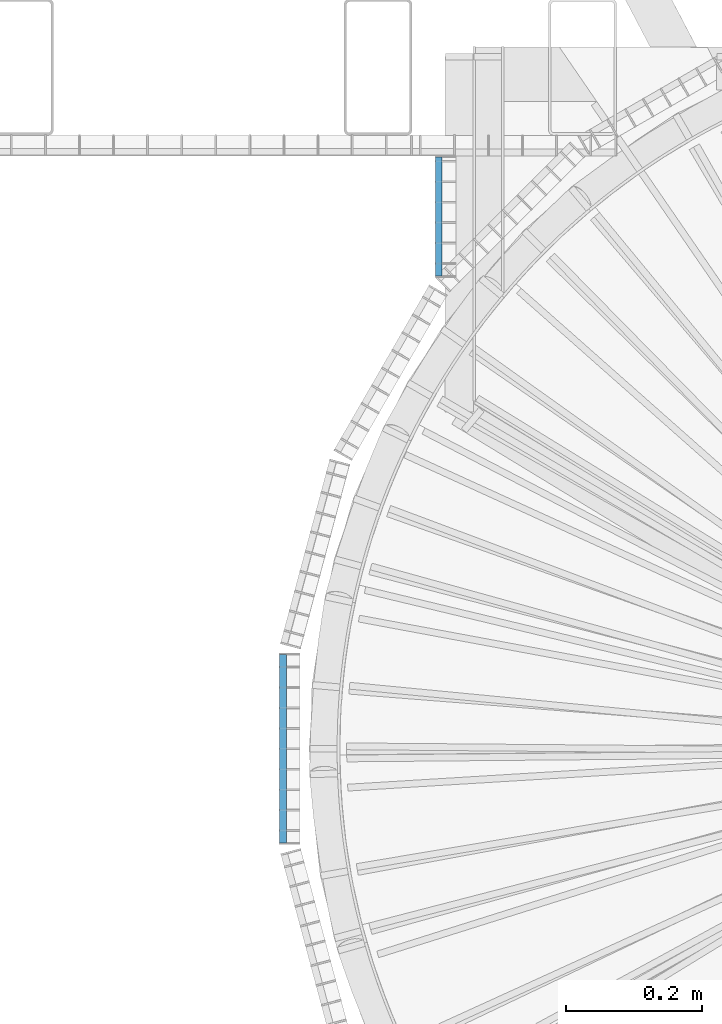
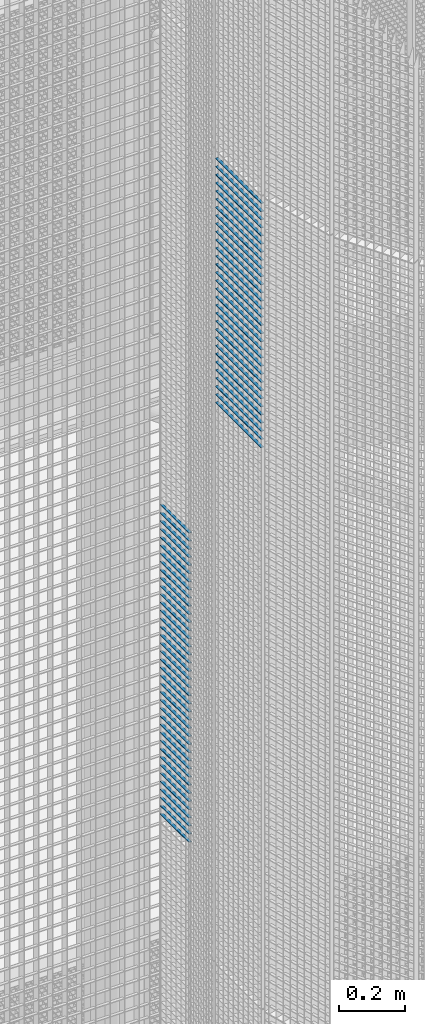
# One storey, part 188 of 1148: 70 beams, 2 elements without a shape of their own.
"""IFC2X3 building model written with IfcOpenShell, lengths in millimetres."""

from ifc_helpers import new_model, si_unit, frame, origin_with_axes, origin_2d_with_axis, place, context, subcontext, project, spatial, rectangle, extrude, material, type_object, element, aggregate, save


model = new_model("IFC2X3")

# Units and contexts
model_context = context("Model", 3, precision=1e-05, world=origin_with_axes())
body_context = subcontext(model_context, "Body", "Model", "MODEL_VIEW")
ifc_project = project(units=[si_unit("LENGTHUNIT", "METRE", prefix="MILLI"), si_unit("AREAUNIT", "SQUARE_METRE"), si_unit("VOLUMEUNIT", "CUBIC_METRE"), si_unit("MASSUNIT", "GRAM", prefix="KILO"), si_unit("TIMEUNIT", "SECOND"), si_unit("PLANEANGLEUNIT", "RADIAN"), si_unit("SOLIDANGLEUNIT", "STERADIAN"), si_unit("THERMODYNAMICTEMPERATUREUNIT", "DEGREE_CELSIUS"), si_unit("LUMINOUSINTENSITYUNIT", "LUMEN")], contexts=[model_context])

# Site, building, storey
site_placement = place(None, origin_with_axes())
site = spatial("IfcSite", under=ifc_project, at=site_placement, Name="Undefined", CompositionType="ELEMENT")
building_placement = place(site_placement, origin_with_axes())
building = spatial("IfcBuilding", under=site, at=building_placement, Name="Undefined", CompositionType="ELEMENT")
storey_placement = place(building_placement, origin_with_axes())
storey = spatial("IfcBuildingStorey", under=building, at=storey_placement, Name="Undefined", CompositionType="ELEMENT", Elevation=0.0)

# Assembly, beams
assembly_1_placement = place(storey_placement, origin_with_axes())
assembly_1 = element("IfcElementAssembly", 1, at=assembly_1_placement, inside=storey, Name="BORDURE", AssemblyPlace="NOTDEFINED", PredefinedType="NOTDEFINED")
ifc_material = material(Name="STEEL/S235JR")
beam_type = type_object("IfcBeamType", Name="PL2*10", PredefinedType="NOTDEFINED")
beam_1_placement = place(assembly_1_placement, frame((-884.882567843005, 867.99701719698, 13170.0), z_axis=(-1.0, 0.0, 0.0), x_axis=(0.0, -1.0, 0.0)))
beam_1 = element("IfcBeam", 2, at=beam_1_placement, type_object=beam_type, material=ifc_material, Name="ENTRETOISE", context=body_context, shape_type="SweptSolid", body=[
    extrude(rectangle(XDim=2.0, YDim=10.0, at=origin_2d_with_axis()), frame((174.109999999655, 0.0, 0.0), z_axis=(-1.0, 0.0, 0.0), x_axis=(0.0, -1.0, 0.0)), (0.0, 0.0, 1.0), 174.11),
])
beam_2_placement = place(assembly_1_placement, frame((-884.882567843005, 867.99701719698, 13140.0), z_axis=(-1.0, 0.0, 0.0), x_axis=(0.0, -1.0, 0.0)))
beam_2 = element("IfcBeam", 3, at=beam_2_placement, type_object=beam_type, material=ifc_material, Name="ENTRETOISE", context=body_context, shape_type="SweptSolid", body=[
    extrude(rectangle(XDim=2.0, YDim=10.0, at=origin_2d_with_axis()), frame((174.109999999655, 0.0, 0.0), z_axis=(-1.0, 0.0, 0.0), x_axis=(0.0, -1.0, 0.0)), (0.0, 0.0, 1.0), 174.11),
])
beam_3_placement = place(assembly_1_placement, frame((-884.882567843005, 867.997017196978, 12720.0), z_axis=(-1.0, 0.0, 0.0), x_axis=(0.0, -1.0, 0.0)))
beam_3 = element("IfcBeam", 4, at=beam_3_placement, type_object=beam_type, material=ifc_material, Name="ENTRETOISE", context=body_context, shape_type="SweptSolid", body=[
    extrude(rectangle(XDim=2.0, YDim=10.0, at=origin_2d_with_axis()), frame((174.109999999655, 0.0, 0.0), z_axis=(-1.0, 0.0, 0.0), x_axis=(0.0, -1.0, 0.0)), (0.0, 0.0, 1.0), 174.11),
])
beam_4_placement = place(assembly_1_placement, frame((-884.882567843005, 867.997017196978, 12690.0), z_axis=(-1.0, 0.0, 0.0), x_axis=(0.0, -1.0, 0.0)))
beam_4 = element("IfcBeam", 5, at=beam_4_placement, type_object=beam_type, material=ifc_material, Name="ENTRETOISE", context=body_context, shape_type="SweptSolid", body=[
    extrude(rectangle(XDim=2.0, YDim=10.0, at=origin_2d_with_axis()), frame((174.109999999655, 0.0, 0.0), z_axis=(-1.0, 0.0, 0.0), x_axis=(0.0, -1.0, 0.0)), (0.0, 0.0, 1.0), 174.11),
])
beam_5_placement = place(assembly_1_placement, frame((-884.882567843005, 867.997017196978, 12750.0), z_axis=(-1.0, 0.0, 0.0), x_axis=(0.0, -1.0, 0.0)))
beam_5 = element("IfcBeam", 6, at=beam_5_placement, type_object=beam_type, material=ifc_material, Name="ENTRETOISE", context=body_context, shape_type="SweptSolid", body=[
    extrude(rectangle(XDim=2.0, YDim=10.0, at=origin_2d_with_axis()), frame((174.109999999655, 0.0, 0.0), z_axis=(-1.0, 0.0, 0.0), x_axis=(0.0, -1.0, 0.0)), (0.0, 0.0, 1.0), 174.11),
])
beam_6_placement = place(assembly_1_placement, frame((-884.882567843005, 867.997017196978, 12660.0), z_axis=(-1.0, 0.0, 0.0), x_axis=(0.0, -1.0, 0.0)))
beam_6 = element("IfcBeam", 7, at=beam_6_placement, type_object=beam_type, material=ifc_material, Name="ENTRETOISE", context=body_context, shape_type="SweptSolid", body=[
    extrude(rectangle(XDim=2.0, YDim=10.0, at=origin_2d_with_axis()), frame((174.109999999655, 0.0, 0.0), z_axis=(-1.0, 0.0, 0.0), x_axis=(0.0, -1.0, 0.0)), (0.0, 0.0, 1.0), 174.11),
])
beam_7_placement = place(assembly_1_placement, frame((-884.882567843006, 867.997017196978, 12630.0), z_axis=(-1.0, 0.0, 0.0), x_axis=(0.0, -1.0, 0.0)))
beam_7 = element("IfcBeam", 8, at=beam_7_placement, type_object=beam_type, material=ifc_material, Name="ENTRETOISE", context=body_context, shape_type="SweptSolid", body=[
    extrude(rectangle(XDim=2.0, YDim=10.0, at=origin_2d_with_axis()), frame((174.109999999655, 0.0, 0.0), z_axis=(-1.0, 0.0, 0.0), x_axis=(0.0, -1.0, 0.0)), (0.0, 0.0, 1.0), 174.11),
])
beam_8_placement = place(assembly_1_placement, frame((-884.882567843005, 867.997017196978, 12780.0), z_axis=(-1.0, 0.0, 0.0), x_axis=(0.0, -1.0, 0.0)))
beam_8 = element("IfcBeam", 9, at=beam_8_placement, type_object=beam_type, material=ifc_material, Name="ENTRETOISE", context=body_context, shape_type="SweptSolid", body=[
    extrude(rectangle(XDim=2.0, YDim=10.0, at=origin_2d_with_axis()), frame((174.109999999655, 0.0, 0.0), z_axis=(-1.0, 0.0, 0.0), x_axis=(0.0, -1.0, 0.0)), (0.0, 0.0, 1.0), 174.11),
])
beam_9_placement = place(assembly_1_placement, frame((-884.882567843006, 867.997017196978, 12600.0), z_axis=(-1.0, 0.0, 0.0), x_axis=(0.0, -1.0, 0.0)))
beam_9 = element("IfcBeam", 10, at=beam_9_placement, type_object=beam_type, material=ifc_material, Name="ENTRETOISE", context=body_context, shape_type="SweptSolid", body=[
    extrude(rectangle(XDim=2.0, YDim=10.0, at=origin_2d_with_axis()), frame((174.109999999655, 0.0, 0.0), z_axis=(-1.0, 0.0, 0.0), x_axis=(0.0, -1.0, 0.0)), (0.0, 0.0, 1.0), 174.11),
])
beam_10_placement = place(assembly_1_placement, frame((-884.882567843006, 867.997017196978, 12810.0), z_axis=(-1.0, 0.0, 0.0), x_axis=(0.0, -1.0, 0.0)))
beam_10 = element("IfcBeam", 11, at=beam_10_placement, type_object=beam_type, material=ifc_material, Name="ENTRETOISE", context=body_context, shape_type="SweptSolid", body=[
    extrude(rectangle(XDim=2.0, YDim=10.0, at=origin_2d_with_axis()), frame((174.109999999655, 0.0, 0.0), z_axis=(-1.0, 0.0, 0.0), x_axis=(0.0, -1.0, 0.0)), (0.0, 0.0, 1.0), 174.11),
])
beam_11_placement = place(assembly_1_placement, frame((-884.882567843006, 867.997017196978, 12570.0), z_axis=(-1.0, 0.0, 0.0), x_axis=(0.0, -1.0, 0.0)))
beam_11 = element("IfcBeam", 12, at=beam_11_placement, type_object=beam_type, material=ifc_material, Name="ENTRETOISE", context=body_context, shape_type="SweptSolid", body=[
    extrude(rectangle(XDim=2.0, YDim=10.0, at=origin_2d_with_axis()), frame((174.109999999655, 0.0, 0.0), z_axis=(-1.0, 0.0, 0.0), x_axis=(0.0, -1.0, 0.0)), (0.0, 0.0, 1.0), 174.11),
])
beam_12_placement = place(assembly_1_placement, frame((-884.882567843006, 867.997017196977, 12540.0), z_axis=(-1.0, 0.0, 0.0), x_axis=(0.0, -1.0, 0.0)))
beam_12 = element("IfcBeam", 13, at=beam_12_placement, type_object=beam_type, material=ifc_material, Name="ENTRETOISE", context=body_context, shape_type="SweptSolid", body=[
    extrude(rectangle(XDim=2.0, YDim=10.0, at=origin_2d_with_axis()), frame((174.109999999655, 0.0, 0.0), z_axis=(-1.0, 0.0, 0.0), x_axis=(0.0, -1.0, 0.0)), (0.0, 0.0, 1.0), 174.11),
])
beam_13_placement = place(assembly_1_placement, frame((-884.882567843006, 867.997017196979, 12840.0), z_axis=(-1.0, 0.0, 0.0), x_axis=(0.0, -1.0, 0.0)))
beam_13 = element("IfcBeam", 14, at=beam_13_placement, type_object=beam_type, material=ifc_material, Name="ENTRETOISE", context=body_context, shape_type="SweptSolid", body=[
    extrude(rectangle(XDim=2.0, YDim=10.0, at=origin_2d_with_axis()), frame((174.109999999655, 0.0, 0.0), z_axis=(-1.0, 0.0, 0.0), x_axis=(0.0, -1.0, 0.0)), (0.0, 0.0, 1.0), 174.11),
])
beam_14_placement = place(assembly_1_placement, frame((-884.882567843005, 867.997017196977, 12510.0), z_axis=(-1.0, 0.0, 0.0), x_axis=(0.0, -1.0, 0.0)))
beam_14 = element("IfcBeam", 15, at=beam_14_placement, type_object=beam_type, material=ifc_material, Name="ENTRETOISE", context=body_context, shape_type="SweptSolid", body=[
    extrude(rectangle(XDim=2.0, YDim=10.0, at=origin_2d_with_axis()), frame((174.109999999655, 0.0, 0.0), z_axis=(-1.0, 0.0, 0.0), x_axis=(0.0, -1.0, 0.0)), (0.0, 0.0, 1.0), 174.11),
])
beam_15_placement = place(assembly_1_placement, frame((-884.882567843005, 867.997017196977, 12480.0), z_axis=(-1.0, 0.0, 0.0), x_axis=(0.0, -1.0, 0.0)))
beam_15 = element("IfcBeam", 16, at=beam_15_placement, type_object=beam_type, material=ifc_material, Name="ENTRETOISE", context=body_context, shape_type="SweptSolid", body=[
    extrude(rectangle(XDim=2.0, YDim=10.0, at=origin_2d_with_axis()), frame((174.109999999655, 0.0, 0.0), z_axis=(-1.0, 0.0, 0.0), x_axis=(0.0, -1.0, 0.0)), (0.0, 0.0, 1.0), 174.11),
])
beam_16_placement = place(assembly_1_placement, frame((-884.882567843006, 867.997017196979, 12870.0), z_axis=(-1.0, 0.0, 0.0), x_axis=(0.0, -1.0, 0.0)))
beam_16 = element("IfcBeam", 17, at=beam_16_placement, type_object=beam_type, material=ifc_material, Name="ENTRETOISE", context=body_context, shape_type="SweptSolid", body=[
    extrude(rectangle(XDim=2.0, YDim=10.0, at=origin_2d_with_axis()), frame((174.109999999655, 0.0, 0.0), z_axis=(-1.0, 0.0, 0.0), x_axis=(0.0, -1.0, 0.0)), (0.0, 0.0, 1.0), 174.11),
])
beam_17_placement = place(assembly_1_placement, frame((-884.882567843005, 867.997017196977, 12450.0), z_axis=(-1.0, 0.0, 0.0), x_axis=(0.0, -1.0, 0.0)))
beam_17 = element("IfcBeam", 18, at=beam_17_placement, type_object=beam_type, material=ifc_material, Name="ENTRETOISE", context=body_context, shape_type="SweptSolid", body=[
    extrude(rectangle(XDim=2.0, YDim=10.0, at=origin_2d_with_axis()), frame((174.109999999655, 0.0, 0.0), z_axis=(-1.0, 0.0, 0.0), x_axis=(0.0, -1.0, 0.0)), (0.0, 0.0, 1.0), 174.11),
])
beam_18_placement = place(assembly_1_placement, frame((-884.882567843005, 867.997017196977, 12420.0), z_axis=(-1.0, 0.0, 0.0), x_axis=(0.0, -1.0, 0.0)))
beam_18 = element("IfcBeam", 19, at=beam_18_placement, type_object=beam_type, material=ifc_material, Name="ENTRETOISE", context=body_context, shape_type="SweptSolid", body=[
    extrude(rectangle(XDim=2.0, YDim=10.0, at=origin_2d_with_axis()), frame((174.109999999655, 0.0, 0.0), z_axis=(-1.0, 0.0, 0.0), x_axis=(0.0, -1.0, 0.0)), (0.0, 0.0, 1.0), 174.11),
])
beam_19_placement = place(assembly_1_placement, frame((-884.882567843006, 867.997017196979, 12900.0), z_axis=(-1.0, 0.0, 0.0), x_axis=(0.0, -1.0, 0.0)))
beam_19 = element("IfcBeam", 20, at=beam_19_placement, type_object=beam_type, material=ifc_material, Name="ENTRETOISE", context=body_context, shape_type="SweptSolid", body=[
    extrude(rectangle(XDim=2.0, YDim=10.0, at=origin_2d_with_axis()), frame((174.109999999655, 0.0, 0.0), z_axis=(-1.0, 0.0, 0.0), x_axis=(0.0, -1.0, 0.0)), (0.0, 0.0, 1.0), 174.11),
])
beam_20_placement = place(assembly_1_placement, frame((-884.882567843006, 867.997017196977, 12390.0), z_axis=(-1.0, 0.0, 0.0), x_axis=(0.0, -1.0, 0.0)))
beam_20 = element("IfcBeam", 21, at=beam_20_placement, type_object=beam_type, material=ifc_material, Name="ENTRETOISE", context=body_context, shape_type="SweptSolid", body=[
    extrude(rectangle(XDim=2.0, YDim=10.0, at=origin_2d_with_axis()), frame((174.109999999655, 0.0, 0.0), z_axis=(-1.0, 0.0, 0.0), x_axis=(0.0, -1.0, 0.0)), (0.0, 0.0, 1.0), 174.11),
])
beam_21_placement = place(assembly_1_placement, frame((-884.882567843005, 867.997017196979, 12930.0), z_axis=(-1.0, 0.0, 0.0), x_axis=(0.0, -1.0, 0.0)))
beam_21 = element("IfcBeam", 22, at=beam_21_placement, type_object=beam_type, material=ifc_material, Name="ENTRETOISE", context=body_context, shape_type="SweptSolid", body=[
    extrude(rectangle(XDim=2.0, YDim=10.0, at=origin_2d_with_axis()), frame((174.109999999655, 0.0, 0.0), z_axis=(-1.0, 0.0, 0.0), x_axis=(0.0, -1.0, 0.0)), (0.0, 0.0, 1.0), 174.11),
])
beam_22_placement = place(assembly_1_placement, frame((-884.882567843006, 867.997017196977, 12360.0), z_axis=(-1.0, 0.0, 0.0), x_axis=(0.0, -1.0, 0.0)))
beam_22 = element("IfcBeam", 23, at=beam_22_placement, type_object=beam_type, material=ifc_material, Name="ENTRETOISE", context=body_context, shape_type="SweptSolid", body=[
    extrude(rectangle(XDim=2.0, YDim=10.0, at=origin_2d_with_axis()), frame((174.109999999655, 0.0, 0.0), z_axis=(-1.0, 0.0, 0.0), x_axis=(0.0, -1.0, 0.0)), (0.0, 0.0, 1.0), 174.11),
])
beam_23_placement = place(assembly_1_placement, frame((-884.882567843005, 867.997017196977, 12330.0), z_axis=(-1.0, 0.0, 0.0), x_axis=(0.0, -1.0, 0.0)))
beam_23 = element("IfcBeam", 24, at=beam_23_placement, type_object=beam_type, material=ifc_material, Name="ENTRETOISE", context=body_context, shape_type="SweptSolid", body=[
    extrude(rectangle(XDim=2.0, YDim=10.0, at=origin_2d_with_axis()), frame((174.109999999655, 0.0, 0.0), z_axis=(-1.0, 0.0, 0.0), x_axis=(0.0, -1.0, 0.0)), (0.0, 0.0, 1.0), 174.11),
])
beam_24_placement = place(assembly_1_placement, frame((-884.882567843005, 867.997017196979, 12960.0), z_axis=(-1.0, 0.0, 0.0), x_axis=(0.0, -1.0, 0.0)))
beam_24 = element("IfcBeam", 25, at=beam_24_placement, type_object=beam_type, material=ifc_material, Name="ENTRETOISE", context=body_context, shape_type="SweptSolid", body=[
    extrude(rectangle(XDim=2.0, YDim=10.0, at=origin_2d_with_axis()), frame((174.109999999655, 0.0, 0.0), z_axis=(-1.0, 0.0, 0.0), x_axis=(0.0, -1.0, 0.0)), (0.0, 0.0, 1.0), 174.11),
])
beam_25_placement = place(assembly_1_placement, frame((-884.882567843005, 867.997017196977, 12300.0), z_axis=(-1.0, 0.0, 0.0), x_axis=(0.0, -1.0, 0.0)))
beam_25 = element("IfcBeam", 26, at=beam_25_placement, type_object=beam_type, material=ifc_material, Name="ENTRETOISE", context=body_context, shape_type="SweptSolid", body=[
    extrude(rectangle(XDim=2.0, YDim=10.0, at=origin_2d_with_axis()), frame((174.109999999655, 0.0, 0.0), z_axis=(-1.0, 0.0, 0.0), x_axis=(0.0, -1.0, 0.0)), (0.0, 0.0, 1.0), 174.11),
])
beam_26_placement = place(assembly_1_placement, frame((-884.882567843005, 867.997017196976, 12270.0), z_axis=(-1.0, 0.0, 0.0), x_axis=(0.0, -1.0, 0.0)))
beam_26 = element("IfcBeam", 27, at=beam_26_placement, type_object=beam_type, material=ifc_material, Name="ENTRETOISE", context=body_context, shape_type="SweptSolid", body=[
    extrude(rectangle(XDim=2.0, YDim=10.0, at=origin_2d_with_axis()), frame((174.109999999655, 0.0, 0.0), z_axis=(-1.0, 0.0, 0.0), x_axis=(0.0, -1.0, 0.0)), (0.0, 0.0, 1.0), 174.11),
])
beam_27_placement = place(assembly_1_placement, frame((-884.882567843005, 867.997017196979, 12990.0), z_axis=(-1.0, 0.0, 0.0), x_axis=(0.0, -1.0, 0.0)))
beam_27 = element("IfcBeam", 28, at=beam_27_placement, type_object=beam_type, material=ifc_material, Name="ENTRETOISE", context=body_context, shape_type="SweptSolid", body=[
    extrude(rectangle(XDim=2.0, YDim=10.0, at=origin_2d_with_axis()), frame((174.109999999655, 0.0, 0.0), z_axis=(-1.0, 0.0, 0.0), x_axis=(0.0, -1.0, 0.0)), (0.0, 0.0, 1.0), 174.11),
])
beam_28_placement = place(assembly_1_placement, frame((-884.882567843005, 867.997017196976, 12240.0), z_axis=(-1.0, 0.0, 0.0), x_axis=(0.0, -1.0, 0.0)))
beam_28 = element("IfcBeam", 29, at=beam_28_placement, type_object=beam_type, material=ifc_material, Name="ENTRETOISE", context=body_context, shape_type="SweptSolid", body=[
    extrude(rectangle(XDim=2.0, YDim=10.0, at=origin_2d_with_axis()), frame((174.109999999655, 0.0, 0.0), z_axis=(-1.0, 0.0, 0.0), x_axis=(0.0, -1.0, 0.0)), (0.0, 0.0, 1.0), 174.11),
])
beam_29_placement = place(assembly_1_placement, frame((-884.882567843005, 867.997017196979, 13020.0), z_axis=(-1.0, 0.0, 0.0), x_axis=(0.0, -1.0, 0.0)))
beam_29 = element("IfcBeam", 30, at=beam_29_placement, type_object=beam_type, material=ifc_material, Name="ENTRETOISE", context=body_context, shape_type="SweptSolid", body=[
    extrude(rectangle(XDim=2.0, YDim=10.0, at=origin_2d_with_axis()), frame((174.109999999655, 0.0, 0.0), z_axis=(-1.0, 0.0, 0.0), x_axis=(0.0, -1.0, 0.0)), (0.0, 0.0, 1.0), 174.11),
])
beam_30_placement = place(assembly_1_placement, frame((-884.882567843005, 867.997017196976, 12210.0), z_axis=(-1.0, 0.0, 0.0), x_axis=(0.0, -1.0, 0.0)))
beam_30 = element("IfcBeam", 31, at=beam_30_placement, type_object=beam_type, material=ifc_material, Name="ENTRETOISE", context=body_context, shape_type="SweptSolid", body=[
    extrude(rectangle(XDim=2.0, YDim=10.0, at=origin_2d_with_axis()), frame((174.109999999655, 0.0, 0.0), z_axis=(-1.0, 0.0, 0.0), x_axis=(0.0, -1.0, 0.0)), (0.0, 0.0, 1.0), 174.11),
])
beam_31_placement = place(assembly_1_placement, frame((-884.882567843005, 867.997017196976, 12180.0), z_axis=(-1.0, 0.0, 0.0), x_axis=(0.0, -1.0, 0.0)))
beam_31 = element("IfcBeam", 32, at=beam_31_placement, type_object=beam_type, material=ifc_material, Name="ENTRETOISE", context=body_context, shape_type="SweptSolid", body=[
    extrude(rectangle(XDim=2.0, YDim=10.0, at=origin_2d_with_axis()), frame((174.109999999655, 0.0, 0.0), z_axis=(-1.0, 0.0, 0.0), x_axis=(0.0, -1.0, 0.0)), (0.0, 0.0, 1.0), 174.11),
])
beam_32_placement = place(assembly_1_placement, frame((-884.882567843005, 867.997017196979, 13050.0), z_axis=(-1.0, 0.0, 0.0), x_axis=(0.0, -1.0, 0.0)))
beam_32 = element("IfcBeam", 33, at=beam_32_placement, type_object=beam_type, material=ifc_material, Name="ENTRETOISE", context=body_context, shape_type="SweptSolid", body=[
    extrude(rectangle(XDim=2.0, YDim=10.0, at=origin_2d_with_axis()), frame((174.109999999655, 0.0, 0.0), z_axis=(-1.0, 0.0, 0.0), x_axis=(0.0, -1.0, 0.0)), (0.0, 0.0, 1.0), 174.11),
])
beam_33_placement = place(assembly_1_placement, frame((-884.882567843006, 867.997017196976, 12150.0), z_axis=(-1.0, 0.0, 0.0), x_axis=(0.0, -1.0, 0.0)))
beam_33 = element("IfcBeam", 34, at=beam_33_placement, type_object=beam_type, material=ifc_material, Name="ENTRETOISE", context=body_context, shape_type="SweptSolid", body=[
    extrude(rectangle(XDim=2.0, YDim=10.0, at=origin_2d_with_axis()), frame((174.109999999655, 0.0, 0.0), z_axis=(-1.0, 0.0, 0.0), x_axis=(0.0, -1.0, 0.0)), (0.0, 0.0, 1.0), 174.11),
])
beam_34_placement = place(assembly_1_placement, frame((-884.882567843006, 867.997017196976, 12120.0), z_axis=(-1.0, 0.0, 0.0), x_axis=(0.0, -1.0, 0.0)))
beam_34 = element("IfcBeam", 35, at=beam_34_placement, type_object=beam_type, material=ifc_material, Name="ENTRETOISE", context=body_context, shape_type="SweptSolid", body=[
    extrude(rectangle(XDim=2.0, YDim=10.0, at=origin_2d_with_axis()), frame((174.109999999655, 0.0, 0.0), z_axis=(-1.0, 0.0, 0.0), x_axis=(0.0, -1.0, 0.0)), (0.0, 0.0, 1.0), 174.11),
])
beam_35_placement = place(assembly_1_placement, frame((-884.882567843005, 867.997017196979, 13080.0), z_axis=(-1.0, 0.0, 0.0), x_axis=(0.0, -1.0, 0.0)))
beam_35 = element("IfcBeam", 36, at=beam_35_placement, type_object=beam_type, material=ifc_material, Name="ENTRETOISE", context=body_context, shape_type="SweptSolid", body=[
    extrude(rectangle(XDim=2.0, YDim=10.0, at=origin_2d_with_axis()), frame((174.109999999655, 0.0, 0.0), z_axis=(-1.0, 0.0, 0.0), x_axis=(0.0, -1.0, 0.0)), (0.0, 0.0, 1.0), 174.11),
])
beam_36_placement = place(assembly_1_placement, frame((-884.882567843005, 867.997017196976, 12090.0), z_axis=(-1.0, 0.0, 0.0), x_axis=(0.0, -1.0, 0.0)))
beam_36 = element("IfcBeam", 37, at=beam_36_placement, type_object=beam_type, material=ifc_material, Name="ENTRETOISE", context=body_context, shape_type="SweptSolid", body=[
    extrude(rectangle(XDim=2.0, YDim=10.0, at=origin_2d_with_axis()), frame((174.109999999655, 0.0, 0.0), z_axis=(-1.0, 0.0, 0.0), x_axis=(0.0, -1.0, 0.0)), (0.0, 0.0, 1.0), 174.11),
])
beam_37_placement = place(assembly_1_placement, frame((-884.882567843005, 867.997017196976, 12060.0), z_axis=(-1.0, 0.0, 0.0), x_axis=(0.0, -1.0, 0.0)))
beam_37 = element("IfcBeam", 38, at=beam_37_placement, type_object=beam_type, material=ifc_material, Name="ENTRETOISE", context=body_context, shape_type="SweptSolid", body=[
    extrude(rectangle(XDim=2.0, YDim=10.0, at=origin_2d_with_axis()), frame((174.109999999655, 0.0, 0.0), z_axis=(-1.0, 0.0, 0.0), x_axis=(0.0, -1.0, 0.0)), (0.0, 0.0, 1.0), 174.11),
])
beam_38_placement = place(assembly_1_placement, frame((-884.882567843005, 867.99701719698, 13110.0), z_axis=(-1.0, 0.0, 0.0), x_axis=(0.0, -1.0, 0.0)))
beam_38 = element("IfcBeam", 39, at=beam_38_placement, type_object=beam_type, material=ifc_material, Name="ENTRETOISE", context=body_context, shape_type="SweptSolid", body=[
    extrude(rectangle(XDim=2.0, YDim=10.0, at=origin_2d_with_axis()), frame((174.109999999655, 0.0, 0.0), z_axis=(-1.0, 0.0, 0.0), x_axis=(0.0, -1.0, 0.0)), (0.0, 0.0, 1.0), 174.11),
])
beam_39_placement = place(assembly_1_placement, frame((-884.882567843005, 867.997017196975, 12030.0), z_axis=(-1.0, 0.0, 0.0), x_axis=(0.0, -1.0, 0.0)))
beam_39 = element("IfcBeam", 40, at=beam_39_placement, type_object=beam_type, material=ifc_material, Name="ENTRETOISE", context=body_context, shape_type="SweptSolid", body=[
    extrude(rectangle(XDim=2.0, YDim=10.0, at=origin_2d_with_axis()), frame((174.109999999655, 0.0, 0.0), z_axis=(-1.0, 0.0, 0.0), x_axis=(0.0, -1.0, 0.0)), (0.0, 0.0, 1.0), 174.11),
])
aggregate(assembly_1, [beam_1, beam_2, beam_3, beam_4, beam_5, beam_6, beam_7, beam_8, beam_9, beam_10, beam_11, beam_12, beam_13, beam_14, beam_15, beam_16, beam_17, beam_18, beam_19, beam_20, beam_21, beam_22, beam_23, beam_24, beam_25, beam_26, beam_27, beam_28, beam_29, beam_30, beam_31, beam_32, beam_33, beam_34, beam_35, beam_36, beam_37, beam_38, beam_39])

assembly_2_placement = place(storey_placement, origin_with_axes())
assembly_2 = element("IfcElementAssembly", 41, at=assembly_2_placement, inside=storey, Name="BORDURE", AssemblyPlace="NOTDEFINED", PredefinedType="NOTDEFINED")
beam_40_placement = place(assembly_2_placement, frame((-1113.47999999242, 137.996003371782, 14970.0), z_axis=(-1.0, 0.0, 0.0), x_axis=(0.0, -1.0, 0.0)))
beam_40 = element("IfcBeam", 42, at=beam_40_placement, type_object=beam_type, material=ifc_material, Name="ENTRETOISE", context=body_context, shape_type="SweptSolid", body=[
    extrude(rectangle(XDim=2.0, YDim=10.0, at=origin_2d_with_axis()), frame((275.999999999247, 9.09494701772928e-13, 1.53210777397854e-14), z_axis=(-1.0, 0.0, 0.0), x_axis=(0.0, -1.0, 0.0)), (0.0, 0.0, 1.0), 276.0),
])
beam_41_placement = place(assembly_2_placement, frame((-1113.47999999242, 137.996003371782, 14940.0), z_axis=(-1.0, 0.0, 0.0), x_axis=(0.0, -1.0, 0.0)))
beam_41 = element("IfcBeam", 43, at=beam_41_placement, type_object=beam_type, material=ifc_material, Name="ENTRETOISE", context=body_context, shape_type="SweptSolid", body=[
    extrude(rectangle(XDim=2.0, YDim=10.0, at=origin_2d_with_axis()), frame((275.999999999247, 9.09494701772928e-13, 1.53210777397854e-14), z_axis=(-1.0, 0.0, 0.0), x_axis=(0.0, -1.0, 0.0)), (0.0, 0.0, 1.0), 276.0),
])
beam_42_placement = place(assembly_2_placement, frame((-1113.47999999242, 137.996003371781, 14910.0), z_axis=(-1.0, 0.0, 0.0), x_axis=(0.0, -1.0, 0.0)))
beam_42 = element("IfcBeam", 44, at=beam_42_placement, type_object=beam_type, material=ifc_material, Name="ENTRETOISE", context=body_context, shape_type="SweptSolid", body=[
    extrude(rectangle(XDim=2.0, YDim=10.0, at=origin_2d_with_axis()), frame((275.999999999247, 9.09494701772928e-13, 1.53210777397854e-14), z_axis=(-1.0, 0.0, 0.0), x_axis=(0.0, -1.0, 0.0)), (0.0, 0.0, 1.0), 276.0),
])
beam_43_placement = place(assembly_2_placement, frame((-1113.47999999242, 137.996003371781, 14880.0), z_axis=(-1.0, 0.0, 0.0), x_axis=(0.0, -1.0, 0.0)))
beam_43 = element("IfcBeam", 45, at=beam_43_placement, type_object=beam_type, material=ifc_material, Name="ENTRETOISE", context=body_context, shape_type="SweptSolid", body=[
    extrude(rectangle(XDim=2.0, YDim=10.0, at=origin_2d_with_axis()), frame((275.999999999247, 9.09494701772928e-13, 1.53210777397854e-14), z_axis=(-1.0, 0.0, 0.0), x_axis=(0.0, -1.0, 0.0)), (0.0, 0.0, 1.0), 276.0),
])
beam_44_placement = place(assembly_2_placement, frame((-1113.47999999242, 137.996003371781, 14850.0), z_axis=(-1.0, 0.0, 0.0), x_axis=(0.0, -1.0, 0.0)))
beam_44 = element("IfcBeam", 46, at=beam_44_placement, type_object=beam_type, material=ifc_material, Name="ENTRETOISE", context=body_context, shape_type="SweptSolid", body=[
    extrude(rectangle(XDim=2.0, YDim=10.0, at=origin_2d_with_axis()), frame((275.999999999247, 9.09494701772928e-13, 1.53210777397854e-14), z_axis=(-1.0, 0.0, 0.0), x_axis=(0.0, -1.0, 0.0)), (0.0, 0.0, 1.0), 276.0),
])
beam_45_placement = place(assembly_2_placement, frame((-1113.47999999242, 137.996003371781, 14820.0), z_axis=(-1.0, 0.0, 0.0), x_axis=(0.0, -1.0, 0.0)))
beam_45 = element("IfcBeam", 47, at=beam_45_placement, type_object=beam_type, material=ifc_material, Name="ENTRETOISE", context=body_context, shape_type="SweptSolid", body=[
    extrude(rectangle(XDim=2.0, YDim=10.0, at=origin_2d_with_axis()), frame((275.999999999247, 9.09494701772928e-13, 1.53210777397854e-14), z_axis=(-1.0, 0.0, 0.0), x_axis=(0.0, -1.0, 0.0)), (0.0, 0.0, 1.0), 276.0),
])
beam_46_placement = place(assembly_2_placement, frame((-1113.47999999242, 137.996003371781, 14790.0), z_axis=(-1.0, 0.0, 0.0), x_axis=(0.0, -1.0, 0.0)))
beam_46 = element("IfcBeam", 48, at=beam_46_placement, type_object=beam_type, material=ifc_material, Name="ENTRETOISE", context=body_context, shape_type="SweptSolid", body=[
    extrude(rectangle(XDim=2.0, YDim=10.0, at=origin_2d_with_axis()), frame((275.999999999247, 9.09494701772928e-13, 1.53210777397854e-14), z_axis=(-1.0, 0.0, 0.0), x_axis=(0.0, -1.0, 0.0)), (0.0, 0.0, 1.0), 276.0),
])
beam_47_placement = place(assembly_2_placement, frame((-1113.47999999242, 137.996003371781, 14760.0), z_axis=(-1.0, 0.0, 0.0), x_axis=(0.0, -1.0, 0.0)))
beam_47 = element("IfcBeam", 49, at=beam_47_placement, type_object=beam_type, material=ifc_material, Name="ENTRETOISE", context=body_context, shape_type="SweptSolid", body=[
    extrude(rectangle(XDim=2.0, YDim=10.0, at=origin_2d_with_axis()), frame((275.999999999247, 9.09494701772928e-13, 1.53210777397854e-14), z_axis=(-1.0, 0.0, 0.0), x_axis=(0.0, -1.0, 0.0)), (0.0, 0.0, 1.0), 276.0),
])
beam_48_placement = place(assembly_2_placement, frame((-1113.47999999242, 137.996003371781, 14730.0), z_axis=(-1.0, 0.0, 0.0), x_axis=(0.0, -1.0, 0.0)))
beam_48 = element("IfcBeam", 50, at=beam_48_placement, type_object=beam_type, material=ifc_material, Name="ENTRETOISE", context=body_context, shape_type="SweptSolid", body=[
    extrude(rectangle(XDim=2.0, YDim=10.0, at=origin_2d_with_axis()), frame((275.999999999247, 9.09494701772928e-13, 1.53210777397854e-14), z_axis=(-1.0, 0.0, 0.0), x_axis=(0.0, -1.0, 0.0)), (0.0, 0.0, 1.0), 276.0),
])
beam_49_placement = place(assembly_2_placement, frame((-1113.47999999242, 137.996003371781, 14700.0), z_axis=(-1.0, 0.0, 0.0), x_axis=(0.0, -1.0, 0.0)))
beam_49 = element("IfcBeam", 51, at=beam_49_placement, type_object=beam_type, material=ifc_material, Name="ENTRETOISE", context=body_context, shape_type="SweptSolid", body=[
    extrude(rectangle(XDim=2.0, YDim=10.0, at=origin_2d_with_axis()), frame((275.999999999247, 9.09494701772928e-13, 1.53210777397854e-14), z_axis=(-1.0, 0.0, 0.0), x_axis=(0.0, -1.0, 0.0)), (0.0, 0.0, 1.0), 276.0),
])
beam_50_placement = place(assembly_2_placement, frame((-1113.47999999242, 137.996003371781, 14670.0), z_axis=(-1.0, 0.0, 0.0), x_axis=(0.0, -1.0, 0.0)))
beam_50 = element("IfcBeam", 52, at=beam_50_placement, type_object=beam_type, material=ifc_material, Name="ENTRETOISE", context=body_context, shape_type="SweptSolid", body=[
    extrude(rectangle(XDim=2.0, YDim=10.0, at=origin_2d_with_axis()), frame((275.999999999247, 9.09494701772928e-13, 1.53210777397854e-14), z_axis=(-1.0, 0.0, 0.0), x_axis=(0.0, -1.0, 0.0)), (0.0, 0.0, 1.0), 276.0),
])
beam_51_placement = place(assembly_2_placement, frame((-1113.47999999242, 137.99600337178, 14640.0), z_axis=(-1.0, 0.0, 0.0), x_axis=(0.0, -1.0, 0.0)))
beam_51 = element("IfcBeam", 53, at=beam_51_placement, type_object=beam_type, material=ifc_material, Name="ENTRETOISE", context=body_context, shape_type="SweptSolid", body=[
    extrude(rectangle(XDim=2.0, YDim=10.0, at=origin_2d_with_axis()), frame((275.999999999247, 9.09494701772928e-13, 1.53210777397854e-14), z_axis=(-1.0, 0.0, 0.0), x_axis=(0.0, -1.0, 0.0)), (0.0, 0.0, 1.0), 276.0),
])
beam_52_placement = place(assembly_2_placement, frame((-1113.47999999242, 137.99600337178, 14610.0), z_axis=(-1.0, 0.0, 0.0), x_axis=(0.0, -1.0, 0.0)))
beam_52 = element("IfcBeam", 54, at=beam_52_placement, type_object=beam_type, material=ifc_material, Name="ENTRETOISE", context=body_context, shape_type="SweptSolid", body=[
    extrude(rectangle(XDim=2.0, YDim=10.0, at=origin_2d_with_axis()), frame((275.999999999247, 9.09494701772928e-13, 1.53210777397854e-14), z_axis=(-1.0, 0.0, 0.0), x_axis=(0.0, -1.0, 0.0)), (0.0, 0.0, 1.0), 276.0),
])
beam_53_placement = place(assembly_2_placement, frame((-1113.47999999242, 137.99600337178, 14580.0), z_axis=(-1.0, 0.0, 0.0), x_axis=(0.0, -1.0, 0.0)))
beam_53 = element("IfcBeam", 55, at=beam_53_placement, type_object=beam_type, material=ifc_material, Name="ENTRETOISE", context=body_context, shape_type="SweptSolid", body=[
    extrude(rectangle(XDim=2.0, YDim=10.0, at=origin_2d_with_axis()), frame((275.999999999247, 9.09494701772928e-13, 1.53210777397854e-14), z_axis=(-1.0, 0.0, 0.0), x_axis=(0.0, -1.0, 0.0)), (0.0, 0.0, 1.0), 276.0),
])
beam_54_placement = place(assembly_2_placement, frame((-1113.47999999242, 137.99600337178, 14550.0), z_axis=(-1.0, 0.0, 0.0), x_axis=(0.0, -1.0, 0.0)))
beam_54 = element("IfcBeam", 56, at=beam_54_placement, type_object=beam_type, material=ifc_material, Name="ENTRETOISE", context=body_context, shape_type="SweptSolid", body=[
    extrude(rectangle(XDim=2.0, YDim=10.0, at=origin_2d_with_axis()), frame((275.999999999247, 9.09494701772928e-13, 1.53210777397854e-14), z_axis=(-1.0, 0.0, 0.0), x_axis=(0.0, -1.0, 0.0)), (0.0, 0.0, 1.0), 276.0),
])
beam_55_placement = place(assembly_2_placement, frame((-1113.47999999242, 137.99600337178, 14520.0), z_axis=(-1.0, 0.0, 0.0), x_axis=(0.0, -1.0, 0.0)))
beam_55 = element("IfcBeam", 57, at=beam_55_placement, type_object=beam_type, material=ifc_material, Name="ENTRETOISE", context=body_context, shape_type="SweptSolid", body=[
    extrude(rectangle(XDim=2.0, YDim=10.0, at=origin_2d_with_axis()), frame((275.999999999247, 9.09494701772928e-13, 1.53210777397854e-14), z_axis=(-1.0, 0.0, 0.0), x_axis=(0.0, -1.0, 0.0)), (0.0, 0.0, 1.0), 276.0),
])
beam_56_placement = place(assembly_2_placement, frame((-1113.47999999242, 137.99600337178, 14490.0), z_axis=(-1.0, 0.0, 0.0), x_axis=(0.0, -1.0, 0.0)))
beam_56 = element("IfcBeam", 58, at=beam_56_placement, type_object=beam_type, material=ifc_material, Name="ENTRETOISE", context=body_context, shape_type="SweptSolid", body=[
    extrude(rectangle(XDim=2.0, YDim=10.0, at=origin_2d_with_axis()), frame((275.999999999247, 9.09494701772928e-13, 1.53210777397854e-14), z_axis=(-1.0, 0.0, 0.0), x_axis=(0.0, -1.0, 0.0)), (0.0, 0.0, 1.0), 276.0),
])
beam_57_placement = place(assembly_2_placement, frame((-1113.47999999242, 137.99600337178, 14460.0), z_axis=(-1.0, 0.0, 0.0), x_axis=(0.0, -1.0, 0.0)))
beam_57 = element("IfcBeam", 59, at=beam_57_placement, type_object=beam_type, material=ifc_material, Name="ENTRETOISE", context=body_context, shape_type="SweptSolid", body=[
    extrude(rectangle(XDim=2.0, YDim=10.0, at=origin_2d_with_axis()), frame((275.999999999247, 9.09494701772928e-13, 1.53210777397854e-14), z_axis=(-1.0, 0.0, 0.0), x_axis=(0.0, -1.0, 0.0)), (0.0, 0.0, 1.0), 276.0),
])
beam_58_placement = place(assembly_2_placement, frame((-1113.47999999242, 137.99600337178, 14430.0), z_axis=(-1.0, 0.0, 0.0), x_axis=(0.0, -1.0, 0.0)))
beam_58 = element("IfcBeam", 60, at=beam_58_placement, type_object=beam_type, material=ifc_material, Name="ENTRETOISE", context=body_context, shape_type="SweptSolid", body=[
    extrude(rectangle(XDim=2.0, YDim=10.0, at=origin_2d_with_axis()), frame((275.999999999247, 9.09494701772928e-13, 1.53210777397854e-14), z_axis=(-1.0, 0.0, 0.0), x_axis=(0.0, -1.0, 0.0)), (0.0, 0.0, 1.0), 276.0),
])
beam_59_placement = place(assembly_2_placement, frame((-1113.47999999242, 137.99600337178, 14400.0), z_axis=(-1.0, 0.0, 0.0), x_axis=(0.0, -1.0, 0.0)))
beam_59 = element("IfcBeam", 61, at=beam_59_placement, type_object=beam_type, material=ifc_material, Name="ENTRETOISE", context=body_context, shape_type="SweptSolid", body=[
    extrude(rectangle(XDim=2.0, YDim=10.0, at=origin_2d_with_axis()), frame((275.999999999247, 9.09494701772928e-13, 1.53210777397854e-14), z_axis=(-1.0, 0.0, 0.0), x_axis=(0.0, -1.0, 0.0)), (0.0, 0.0, 1.0), 276.0),
])
beam_60_placement = place(assembly_2_placement, frame((-1113.47999999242, 137.996003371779, 14370.0), z_axis=(-1.0, 0.0, 0.0), x_axis=(0.0, -1.0, 0.0)))
beam_60 = element("IfcBeam", 62, at=beam_60_placement, type_object=beam_type, material=ifc_material, Name="ENTRETOISE", context=body_context, shape_type="SweptSolid", body=[
    extrude(rectangle(XDim=2.0, YDim=10.0, at=origin_2d_with_axis()), frame((275.999999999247, 9.09494701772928e-13, 1.53210777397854e-14), z_axis=(-1.0, 0.0, 0.0), x_axis=(0.0, -1.0, 0.0)), (0.0, 0.0, 1.0), 276.0),
])
beam_61_placement = place(assembly_2_placement, frame((-1113.47999999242, 137.996003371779, 14340.0), z_axis=(-1.0, 0.0, 0.0), x_axis=(0.0, -1.0, 0.0)))
beam_61 = element("IfcBeam", 63, at=beam_61_placement, type_object=beam_type, material=ifc_material, Name="ENTRETOISE", context=body_context, shape_type="SweptSolid", body=[
    extrude(rectangle(XDim=2.0, YDim=10.0, at=origin_2d_with_axis()), frame((275.999999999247, 9.09494701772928e-13, 1.53210777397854e-14), z_axis=(-1.0, 0.0, 0.0), x_axis=(0.0, -1.0, 0.0)), (0.0, 0.0, 1.0), 276.0),
])
beam_62_placement = place(assembly_2_placement, frame((-1113.47999999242, 137.996003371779, 14310.0), z_axis=(-1.0, 0.0, 0.0), x_axis=(0.0, -1.0, 0.0)))
beam_62 = element("IfcBeam", 64, at=beam_62_placement, type_object=beam_type, material=ifc_material, Name="ENTRETOISE", context=body_context, shape_type="SweptSolid", body=[
    extrude(rectangle(XDim=2.0, YDim=10.0, at=origin_2d_with_axis()), frame((275.999999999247, 9.09494701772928e-13, 1.53210777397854e-14), z_axis=(-1.0, 0.0, 0.0), x_axis=(0.0, -1.0, 0.0)), (0.0, 0.0, 1.0), 276.0),
])
beam_63_placement = place(assembly_2_placement, frame((-1113.47999999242, 137.996003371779, 14280.0), z_axis=(-1.0, 0.0, 0.0), x_axis=(0.0, -1.0, 0.0)))
beam_63 = element("IfcBeam", 65, at=beam_63_placement, type_object=beam_type, material=ifc_material, Name="ENTRETOISE", context=body_context, shape_type="SweptSolid", body=[
    extrude(rectangle(XDim=2.0, YDim=10.0, at=origin_2d_with_axis()), frame((275.999999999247, 9.09494701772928e-13, 1.53210777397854e-14), z_axis=(-1.0, 0.0, 0.0), x_axis=(0.0, -1.0, 0.0)), (0.0, 0.0, 1.0), 276.0),
])
beam_64_placement = place(assembly_2_placement, frame((-1113.47999999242, 137.996003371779, 14250.0), z_axis=(-1.0, 0.0, 0.0), x_axis=(0.0, -1.0, 0.0)))
beam_64 = element("IfcBeam", 66, at=beam_64_placement, type_object=beam_type, material=ifc_material, Name="ENTRETOISE", context=body_context, shape_type="SweptSolid", body=[
    extrude(rectangle(XDim=2.0, YDim=10.0, at=origin_2d_with_axis()), frame((275.999999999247, 9.09494701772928e-13, 1.53210777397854e-14), z_axis=(-1.0, 0.0, 0.0), x_axis=(0.0, -1.0, 0.0)), (0.0, 0.0, 1.0), 276.0),
])
beam_65_placement = place(assembly_2_placement, frame((-1113.47999999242, 137.996003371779, 14220.0), z_axis=(-1.0, 0.0, 0.0), x_axis=(0.0, -1.0, 0.0)))
beam_65 = element("IfcBeam", 67, at=beam_65_placement, type_object=beam_type, material=ifc_material, Name="ENTRETOISE", context=body_context, shape_type="SweptSolid", body=[
    extrude(rectangle(XDim=2.0, YDim=10.0, at=origin_2d_with_axis()), frame((275.999999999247, 9.09494701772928e-13, 1.53210777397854e-14), z_axis=(-1.0, 0.0, 0.0), x_axis=(0.0, -1.0, 0.0)), (0.0, 0.0, 1.0), 276.0),
])
beam_66_placement = place(assembly_2_placement, frame((-1113.47999999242, 137.996003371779, 14190.0), z_axis=(-1.0, 0.0, 0.0), x_axis=(0.0, -1.0, 0.0)))
beam_66 = element("IfcBeam", 68, at=beam_66_placement, type_object=beam_type, material=ifc_material, Name="ENTRETOISE", context=body_context, shape_type="SweptSolid", body=[
    extrude(rectangle(XDim=2.0, YDim=10.0, at=origin_2d_with_axis()), frame((275.999999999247, 9.09494701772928e-13, 1.53210777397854e-14), z_axis=(-1.0, 0.0, 0.0), x_axis=(0.0, -1.0, 0.0)), (0.0, 0.0, 1.0), 276.0),
])
beam_67_placement = place(assembly_2_placement, frame((-1113.47999999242, 137.996003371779, 14160.0), z_axis=(-1.0, 0.0, 0.0), x_axis=(0.0, -1.0, 0.0)))
beam_67 = element("IfcBeam", 69, at=beam_67_placement, type_object=beam_type, material=ifc_material, Name="ENTRETOISE", context=body_context, shape_type="SweptSolid", body=[
    extrude(rectangle(XDim=2.0, YDim=10.0, at=origin_2d_with_axis()), frame((275.999999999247, 9.09494701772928e-13, 1.53210777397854e-14), z_axis=(-1.0, 0.0, 0.0), x_axis=(0.0, -1.0, 0.0)), (0.0, 0.0, 1.0), 276.0),
])
beam_68_placement = place(assembly_2_placement, frame((-1113.47999999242, 137.996003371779, 14130.0), z_axis=(-1.0, 0.0, 0.0), x_axis=(0.0, -1.0, 0.0)))
beam_68 = element("IfcBeam", 70, at=beam_68_placement, type_object=beam_type, material=ifc_material, Name="ENTRETOISE", context=body_context, shape_type="SweptSolid", body=[
    extrude(rectangle(XDim=2.0, YDim=10.0, at=origin_2d_with_axis()), frame((275.999999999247, 9.09494701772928e-13, 1.53210777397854e-14), z_axis=(-1.0, 0.0, 0.0), x_axis=(0.0, -1.0, 0.0)), (0.0, 0.0, 1.0), 276.0),
])
beam_69_placement = place(assembly_2_placement, frame((-1113.47999999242, 137.996003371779, 14100.0), z_axis=(-1.0, 0.0, 0.0), x_axis=(0.0, -1.0, 0.0)))
beam_69 = element("IfcBeam", 71, at=beam_69_placement, type_object=beam_type, material=ifc_material, Name="ENTRETOISE", context=body_context, shape_type="SweptSolid", body=[
    extrude(rectangle(XDim=2.0, YDim=10.0, at=origin_2d_with_axis()), frame((275.999999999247, 9.09494701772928e-13, 1.53210777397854e-14), z_axis=(-1.0, 0.0, 0.0), x_axis=(0.0, -1.0, 0.0)), (0.0, 0.0, 1.0), 276.0),
])
beam_70_placement = place(assembly_2_placement, frame((-1113.47999999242, 137.996003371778, 14070.0), z_axis=(-1.0, 0.0, 0.0), x_axis=(0.0, -1.0, 0.0)))
beam_70 = element("IfcBeam", 72, at=beam_70_placement, type_object=beam_type, material=ifc_material, Name="ENTRETOISE", context=body_context, shape_type="SweptSolid", body=[
    extrude(rectangle(XDim=2.0, YDim=10.0, at=origin_2d_with_axis()), frame((275.999999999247, 9.09494701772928e-13, 1.53210777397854e-14), z_axis=(-1.0, 0.0, 0.0), x_axis=(0.0, -1.0, 0.0)), (0.0, 0.0, 1.0), 276.0),
])
aggregate(assembly_2, [beam_40, beam_41, beam_42, beam_43, beam_44, beam_45, beam_46, beam_47, beam_48, beam_49, beam_50, beam_51, beam_52, beam_53, beam_54, beam_55, beam_56, beam_57, beam_58, beam_59, beam_60, beam_61, beam_62, beam_63, beam_64, beam_65, beam_66, beam_67, beam_68, beam_69, beam_70])

save(model, "model.ifc")
